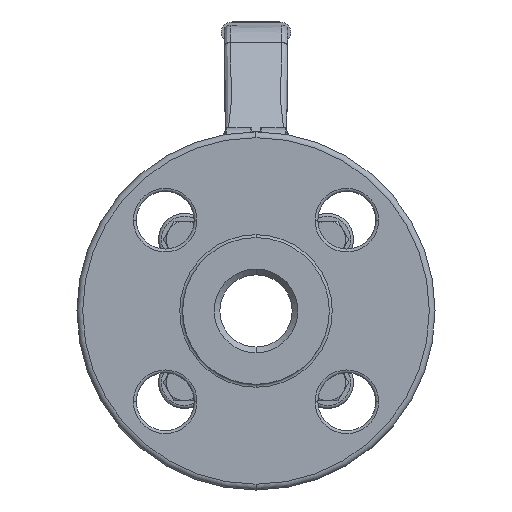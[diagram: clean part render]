
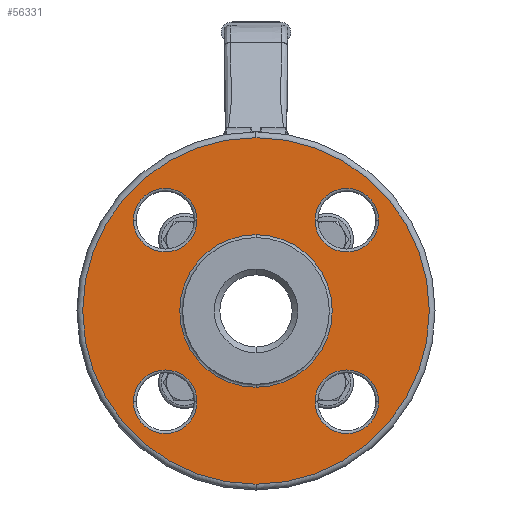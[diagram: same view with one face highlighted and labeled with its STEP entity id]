
A CAD part, left-side view. The second image highlights one B-rep face of the part: STEP entity #56331.
In plain terms, the highlighted planar face has unit normal (-1, 0, 0).
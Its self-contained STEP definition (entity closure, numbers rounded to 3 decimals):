
#55=CARTESIAN_POINT('',(-73.35,0.,0.));
#56=DIRECTION('',(-1.,0.,0.));
#57=DIRECTION('',(0.,0.,1.));
#58=AXIS2_PLACEMENT_3D('',#55,#56,#57);
#75=CARTESIAN_POINT('',(-73.35,0.,0.));
#76=DIRECTION('',(1.,0.,0.));
#77=DIRECTION('',(0.,0.,-1.));
#78=AXIS2_PLACEMENT_3D('',#75,#76,#77);
#98=CARTESIAN_POINT('',(-73.35,0.,0.));
#99=DIRECTION('',(1.,0.,0.));
#100=DIRECTION('',(0.,0.,1.));
#101=AXIS2_PLACEMENT_3D('',#98,#99,#100);
#46216=CARTESIAN_POINT('',(-73.35,31.431,31.431));
#46217=DIRECTION('',(1.,0.,0.));
#46218=DIRECTION('',(0.,1.,0.));
#46219=AXIS2_PLACEMENT_3D('',#46216,#46217,#46218);
#46231=CARTESIAN_POINT('',(-73.35,31.431,31.431));
#46232=DIRECTION('',(1.,0.,0.));
#46233=DIRECTION('',(0.,-1.,0.));
#46234=AXIS2_PLACEMENT_3D('',#46231,#46232,#46233);
#46284=CARTESIAN_POINT('',(-73.35,-31.431,31.431));
#46285=DIRECTION('',(1.,0.,0.));
#46286=DIRECTION('',(0.,-1.,0.));
#46287=AXIS2_PLACEMENT_3D('',#46284,#46285,#46286);
#46299=CARTESIAN_POINT('',(-73.35,-31.431,31.431));
#46300=DIRECTION('',(1.,0.,0.));
#46301=DIRECTION('',(0.,1.,0.));
#46302=AXIS2_PLACEMENT_3D('',#46299,#46300,#46301);
#46352=CARTESIAN_POINT('',(-73.35,-31.431,-31.431));
#46353=DIRECTION('',(1.,0.,0.));
#46354=DIRECTION('',(0.,1.,0.));
#46355=AXIS2_PLACEMENT_3D('',#46352,#46353,#46354);
#46367=CARTESIAN_POINT('',(-73.35,-31.431,-31.431));
#46368=DIRECTION('',(1.,0.,0.));
#46369=DIRECTION('',(0.,-1.,0.));
#46370=AXIS2_PLACEMENT_3D('',#46367,#46368,#46369);
#46420=CARTESIAN_POINT('',(-73.35,31.431,-31.431));
#46421=DIRECTION('',(1.,0.,0.));
#46422=DIRECTION('',(0.,-1.,0.));
#46423=AXIS2_PLACEMENT_3D('',#46420,#46421,#46422);
#46435=CARTESIAN_POINT('',(-73.35,31.431,-31.431));
#46436=DIRECTION('',(1.,0.,0.));
#46437=DIRECTION('',(0.,1.,0.));
#46438=AXIS2_PLACEMENT_3D('',#46435,#46436,#46437);
#46454=CARTESIAN_POINT('',(-73.35,0.,0.));
#46455=DIRECTION('',(-1.,0.,0.));
#46456=DIRECTION('',(0.,0.,-1.));
#46457=AXIS2_PLACEMENT_3D('',#46454,#46455,#46456);
#46485=CARTESIAN_POINT('',(-73.35,0.,-60.));
#46486=CARTESIAN_POINT('',(-73.35,0.,60.));
#46487=VERTEX_POINT('',#46485);
#46488=VERTEX_POINT('',#46486);
#47473=CARTESIAN_POINT('',(-73.35,42.431,31.431));
#47474=CARTESIAN_POINT('',(-73.35,20.431,31.431));
#47475=VERTEX_POINT('',#47473);
#47476=VERTEX_POINT('',#47474);
#47489=CARTESIAN_POINT('',(-73.35,-42.431,31.431));
#47490=CARTESIAN_POINT('',(-73.35,-20.431,31.431));
#47491=VERTEX_POINT('',#47489);
#47492=VERTEX_POINT('',#47490);
#47505=CARTESIAN_POINT('',(-73.35,-20.431,-31.431));
#47506=CARTESIAN_POINT('',(-73.35,-42.431,-31.431));
#47507=VERTEX_POINT('',#47505);
#47508=VERTEX_POINT('',#47506);
#47521=CARTESIAN_POINT('',(-73.35,42.431,-31.431));
#47522=CARTESIAN_POINT('',(-73.35,20.431,-31.431));
#47523=VERTEX_POINT('',#47521);
#47524=VERTEX_POINT('',#47522);
#48253=CARTESIAN_POINT('',(-73.35,0.,26.4));
#48254=CARTESIAN_POINT('',(-73.35,0.,-26.4));
#48255=VERTEX_POINT('',#48253);
#48256=VERTEX_POINT('',#48254);
#56291=CARTESIAN_POINT('',(-73.35,0.,0.));
#56292=DIRECTION('',(-1.,0.,0.));
#56293=DIRECTION('',(0.,0.,1.));
#56294=AXIS2_PLACEMENT_3D('',#56291,#56292,#56293);
#56295=PLANE('',#56294);
#56297=ORIENTED_EDGE('',*,*,#56296,.T.);
#56299=ORIENTED_EDGE('',*,*,#56298,.T.);
#56300=EDGE_LOOP('',(#56297,#56299));
#56301=FACE_OUTER_BOUND('',#56300,.F.);
#56302=ORIENTED_EDGE('',*,*,#56281,.T.);
#56304=ORIENTED_EDGE('',*,*,#56303,.T.);
#56305=EDGE_LOOP('',(#56302,#56304));
#56306=FACE_BOUND('',#56305,.F.);
#56308=ORIENTED_EDGE('',*,*,#56307,.F.);
#56310=ORIENTED_EDGE('',*,*,#56309,.F.);
#56311=EDGE_LOOP('',(#56308,#56310));
#56312=FACE_BOUND('',#56311,.F.);
#56314=ORIENTED_EDGE('',*,*,#56313,.F.);
#56316=ORIENTED_EDGE('',*,*,#56315,.F.);
#56317=EDGE_LOOP('',(#56314,#56316));
#56318=FACE_BOUND('',#56317,.F.);
#56320=ORIENTED_EDGE('',*,*,#56319,.F.);
#56322=ORIENTED_EDGE('',*,*,#56321,.F.);
#56323=EDGE_LOOP('',(#56320,#56322));
#56324=FACE_BOUND('',#56323,.F.);
#56326=ORIENTED_EDGE('',*,*,#56325,.F.);
#56328=ORIENTED_EDGE('',*,*,#56327,.F.);
#56329=EDGE_LOOP('',(#56326,#56328));
#56330=FACE_BOUND('',#56329,.F.);
#56331=ADVANCED_FACE('',(#56301,#56306,#56312,#56318,#56324,#56330),#56295,.T.);
#59=CIRCLE('',#58,26.4);
#79=CIRCLE('',#78,60.);
#102=CIRCLE('',#101,60.);
#46220=CIRCLE('',#46219,11.);
#46235=CIRCLE('',#46234,11.);
#46288=CIRCLE('',#46287,11.);
#46303=CIRCLE('',#46302,11.);
#46356=CIRCLE('',#46355,11.);
#46371=CIRCLE('',#46370,11.);
#46424=CIRCLE('',#46423,11.);
#46439=CIRCLE('',#46438,11.);
#46458=CIRCLE('',#46457,26.4);
#56281=EDGE_CURVE('',#48255,#48256,#59,.T.);
#56296=EDGE_CURVE('',#46487,#46488,#79,.T.);
#56298=EDGE_CURVE('',#46488,#46487,#102,.T.);
#56303=EDGE_CURVE('',#48256,#48255,#46458,.T.);
#56307=EDGE_CURVE('',#47475,#47476,#46220,.T.);
#56309=EDGE_CURVE('',#47476,#47475,#46235,.T.);
#56313=EDGE_CURVE('',#47491,#47492,#46288,.T.);
#56315=EDGE_CURVE('',#47492,#47491,#46303,.T.);
#56319=EDGE_CURVE('',#47507,#47508,#46356,.T.);
#56321=EDGE_CURVE('',#47508,#47507,#46371,.T.);
#56325=EDGE_CURVE('',#47523,#47524,#46439,.T.);
#56327=EDGE_CURVE('',#47524,#47523,#46424,.T.);
